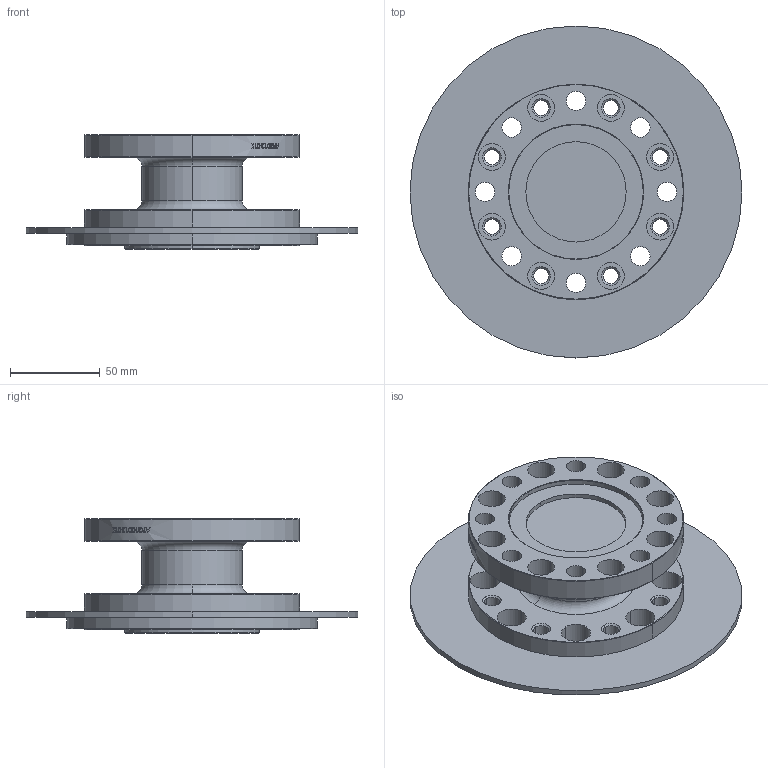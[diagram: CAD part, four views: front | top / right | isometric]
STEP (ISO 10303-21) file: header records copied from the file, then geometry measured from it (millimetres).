
FILE_DESCRIPTION (( 'STEP AP203' ), '1' );
FILE_NAME ('ATQ10D12-1KEX.STEP', '2019-02-01T19:53:59', ( '' ), ( '' ), 'SwSTEP 2.0', 'SolidWorks 2018', '' );
FILE_SCHEMA (( 'CONFIG_CONTROL_DESIGN' ));
Length unit declared in the file: inch
Products named in the file (1): ATQ10D12-1KEX
Bounding box: 185.17 x 185.17 x 64.01 mm (x, y, z)
Volume: 438663.9 mm3; surface area: 105065.4 mm2
Topology: 1 solids, 1 shells, 474 faces, 1219 edges, 796 vertices
Faces by surface type: bspline 160, plane 138, cylinder 126, cone 46, torus 4
Entity records: 30911 total; most frequent: CARTESIAN_POINT 20309, ORIENTED_EDGE 2438, DIRECTION 1715, EDGE_CURVE 1219, VERTEX_POINT 796, AXIS2_PLACEMENT_3D 705, EDGE_LOOP 587, B_SPLINE_CURVE_WITH_KNOTS 524
